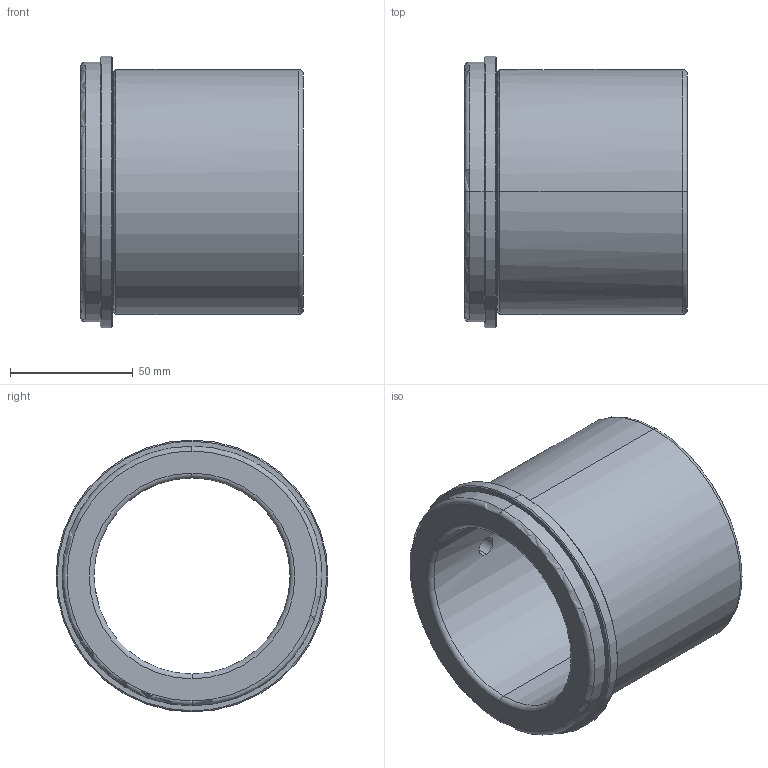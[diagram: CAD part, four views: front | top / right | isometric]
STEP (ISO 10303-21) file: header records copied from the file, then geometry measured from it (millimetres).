
FILE_DESCRIPTION(('CATIA V5 STEP Exchange'),'2;1');
FILE_NAME('C:\Users\Utente\Desktop\IO LAVORO\3D X SITO CF\X SITO\CF 631\CF 631 80 x 91.stp','2020-12-26T19:14:32+00:00',('none'),('none'),'CATIA Version 5 Release 20 GA (IN-10)','CATIA V5 STEP AP203','none');
FILE_SCHEMA(('CONFIG_CONTROL_DESIGN'));
Length unit declared in the file: millimetre
Products named in the file (1): CF 631 80 x 91
Bounding box: 91 x 111 x 111 mm (x, y, z)
Volume: 271713.9 mm3; surface area: 60917.3 mm2
Topology: 1 solids, 1 shells, 33 faces, 112 edges, 84 vertices
Faces by surface type: cylinder 12, torus 8, cone 8, plane 5
Entity records: 1539 total; most frequent: CARTESIAN_POINT 533, ORIENTED_EDGE 224, DIRECTION 156, EDGE_CURVE 112, AXIS2_PLACEMENT_3D 104, VERTEX_POINT 84, CIRCLE 70, EDGE_LOOP 40
